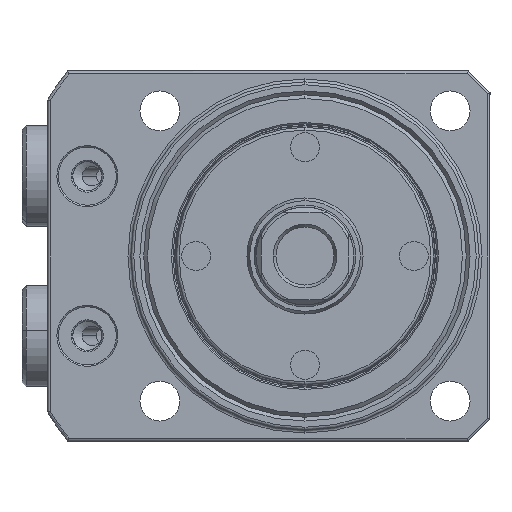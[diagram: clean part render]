
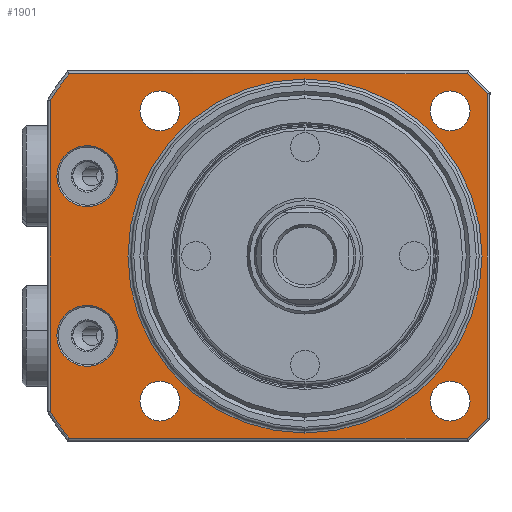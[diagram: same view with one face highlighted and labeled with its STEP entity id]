
A CAD part, front view. The second image highlights one B-rep face of the part: STEP entity #1901.
In plain terms, the highlighted planar face has unit normal (0, -1, 0) as drawn and (1, 0, 0) by its records, which use the part's own axes.
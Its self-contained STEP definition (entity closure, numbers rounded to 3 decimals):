
#929=FACE_BOUND('',#2471,.T.);
#930=FACE_BOUND('',#2472,.T.);
#931=FACE_BOUND('',#2473,.T.);
#932=FACE_BOUND('',#2474,.T.);
#933=FACE_BOUND('',#2475,.T.);
#934=FACE_BOUND('',#2476,.T.);
#935=FACE_BOUND('',#2477,.T.);
#936=FACE_BOUND('',#2478,.T.);
#1055=PLANE('',#5761);
#1407=LINE('',#8744,#1662);
#1408=LINE('',#8747,#1663);
#1409=LINE('',#8749,#1664);
#1410=LINE('',#8753,#1665);
#1411=LINE('',#8757,#1666);
#1412=LINE('',#8759,#1667);
#1662=VECTOR('',#6709,1.);
#1663=VECTOR('',#6710,1.);
#1664=VECTOR('',#6711,1.);
#1665=VECTOR('',#6714,1.);
#1666=VECTOR('',#6717,1.);
#1667=VECTOR('',#6718,1.);
#1901=ADVANCED_FACE('',(#929,#930,#931,#932,#933,#934,#935,#936),#1055,
 .F.);
#2471=EDGE_LOOP('',(#3489,#3490));
#2472=EDGE_LOOP('',(#3491,#3492));
#2473=EDGE_LOOP('',(#3493,#3494,#3495,#3496,#3497,#3498,#3499,#3500));
#2474=EDGE_LOOP('',(#3501,#3502));
#2475=EDGE_LOOP('',(#3503,#3504));
#2476=EDGE_LOOP('',(#3505,#3506));
#2477=EDGE_LOOP('',(#3507,#3508));
#2478=EDGE_LOOP('',(#3509,#3510));
#2718=CIRCLE('',#5610,4.2);
#2724=CIRCLE('',#5618,4.2);
#2733=CIRCLE('',#5630,24.4);
#2757=CIRCLE('',#5668,2.75);
#2760=CIRCLE('',#5673,2.75);
#2763=CIRCLE('',#5678,2.75);
#2766=CIRCLE('',#5683,2.75);
#2804=CIRCLE('',#5752,4.2);
#2805=CIRCLE('',#5753,4.2);
#2806=CIRCLE('',#5754,41.1);
#2807=CIRCLE('',#5755,41.1);
#2808=CIRCLE('',#5756,24.4);
#2809=CIRCLE('',#5757,2.75);
#2810=CIRCLE('',#5758,2.75);
#2811=CIRCLE('',#5759,2.75);
#2812=CIRCLE('',#5760,2.75);
#3489=ORIENTED_EDGE('',*,*,#4852,.T.);
#3490=ORIENTED_EDGE('',*,*,#5050,.T.);
#3491=ORIENTED_EDGE('',*,*,#4842,.T.);
#3492=ORIENTED_EDGE('',*,*,#5051,.T.);
#3493=ORIENTED_EDGE('',*,*,#5052,.T.);
#3494=ORIENTED_EDGE('',*,*,#5053,.T.);
#3495=ORIENTED_EDGE('',*,*,#5054,.T.);
#3496=ORIENTED_EDGE('',*,*,#5055,.T.);
#3497=ORIENTED_EDGE('',*,*,#5056,.T.);
#3498=ORIENTED_EDGE('',*,*,#5057,.T.);
#3499=ORIENTED_EDGE('',*,*,#5058,.T.);
#3500=ORIENTED_EDGE('',*,*,#5059,.T.);
#3501=ORIENTED_EDGE('',*,*,#5060,.T.);
#3502=ORIENTED_EDGE('',*,*,#4864,.T.);
#3503=ORIENTED_EDGE('',*,*,#5061,.T.);
#3504=ORIENTED_EDGE('',*,*,#4927,.T.);
#3505=ORIENTED_EDGE('',*,*,#5062,.T.);
#3506=ORIENTED_EDGE('',*,*,#4935,.T.);
#3507=ORIENTED_EDGE('',*,*,#5063,.T.);
#3508=ORIENTED_EDGE('',*,*,#4943,.T.);
#3509=ORIENTED_EDGE('',*,*,#5064,.T.);
#3510=ORIENTED_EDGE('',*,*,#4951,.T.);
#4370=VERTEX_POINT('',#7937);
#4371=VERTEX_POINT('',#7939);
#4380=VERTEX_POINT('',#7959);
#4381=VERTEX_POINT('',#7961);
#4392=VERTEX_POINT('',#7987);
#4393=VERTEX_POINT('',#7988);
#4448=VERTEX_POINT('',#8207);
#4449=VERTEX_POINT('',#8208);
#4456=VERTEX_POINT('',#8234);
#4457=VERTEX_POINT('',#8235);
#4464=VERTEX_POINT('',#8261);
#4465=VERTEX_POINT('',#8262);
#4472=VERTEX_POINT('',#8288);
#4473=VERTEX_POINT('',#8289);
#4524=VERTEX_POINT('',#8745);
#4525=VERTEX_POINT('',#8746);
#4526=VERTEX_POINT('',#8748);
#4527=VERTEX_POINT('',#8750);
#4528=VERTEX_POINT('',#8752);
#4529=VERTEX_POINT('',#8754);
#4530=VERTEX_POINT('',#8756);
#4531=VERTEX_POINT('',#8758);
#4842=EDGE_CURVE('',#4371,#4370,#2718,.T.);
#4852=EDGE_CURVE('',#4381,#4380,#2724,.T.);
#4864=EDGE_CURVE('',#4392,#4393,#2733,.T.);
#4927=EDGE_CURVE('',#4448,#4449,#2757,.T.);
#4935=EDGE_CURVE('',#4456,#4457,#2760,.T.);
#4943=EDGE_CURVE('',#4464,#4465,#2763,.T.);
#4951=EDGE_CURVE('',#4472,#4473,#2766,.T.);
#5050=EDGE_CURVE('',#4380,#4381,#2804,.T.);
#5051=EDGE_CURVE('',#4370,#4371,#2805,.T.);
#5052=EDGE_CURVE('',#4524,#4525,#1407,.T.);
#5053=EDGE_CURVE('',#4525,#4526,#1408,.T.);
#5054=EDGE_CURVE('',#4526,#4527,#1409,.T.);
#5055=EDGE_CURVE('',#4527,#4528,#2806,.T.);
#5056=EDGE_CURVE('',#4528,#4529,#1410,.T.);
#5057=EDGE_CURVE('',#4529,#4530,#2807,.T.);
#5058=EDGE_CURVE('',#4530,#4531,#1411,.T.);
#5059=EDGE_CURVE('',#4531,#4524,#1412,.T.);
#5060=EDGE_CURVE('',#4393,#4392,#2808,.T.);
#5061=EDGE_CURVE('',#4449,#4448,#2809,.T.);
#5062=EDGE_CURVE('',#4457,#4456,#2810,.T.);
#5063=EDGE_CURVE('',#4465,#4464,#2811,.T.);
#5064=EDGE_CURVE('',#4473,#4472,#2812,.T.);
#5610=AXIS2_PLACEMENT_3D('',#7938,#6347,#6348);
#5618=AXIS2_PLACEMENT_3D('',#7960,#6367,#6368);
#5630=AXIS2_PLACEMENT_3D('',#7986,#6394,#6395);
#5668=AXIS2_PLACEMENT_3D('',#8206,#6498,#6499);
#5673=AXIS2_PLACEMENT_3D('',#8233,#6512,#6513);
#5678=AXIS2_PLACEMENT_3D('',#8260,#6526,#6527);
#5683=AXIS2_PLACEMENT_3D('',#8287,#6540,#6541);
#5752=AXIS2_PLACEMENT_3D('',#8742,#6705,#6706);
#5753=AXIS2_PLACEMENT_3D('',#8743,#6707,#6708);
#5754=AXIS2_PLACEMENT_3D('',#8751,#6712,#6713);
#5755=AXIS2_PLACEMENT_3D('',#8755,#6715,#6716);
#5756=AXIS2_PLACEMENT_3D('',#8760,#6719,#6720);
#5757=AXIS2_PLACEMENT_3D('',#8761,#6721,#6722);
#5758=AXIS2_PLACEMENT_3D('',#8762,#6723,#6724);
#5759=AXIS2_PLACEMENT_3D('',#8763,#6725,#6726);
#5760=AXIS2_PLACEMENT_3D('',#8764,#6727,#6728);
#5761=AXIS2_PLACEMENT_3D('',#8765,#6729,#6730);
#6347=DIRECTION('',(-1.,0.,0.));
#6348=DIRECTION('',(0.,0.,1.));
#6367=DIRECTION('',(-1.,0.,0.));
#6368=DIRECTION('',(0.,0.,1.));
#6394=DIRECTION('',(-1.,0.,0.));
#6395=DIRECTION('',(0.,0.,1.));
#6498=DIRECTION('',(-1.,0.,0.));
#6499=DIRECTION('',(0.,0.,1.));
#6512=DIRECTION('',(-1.,0.,0.));
#6513=DIRECTION('',(0.,0.,1.));
#6526=DIRECTION('',(-1.,0.,0.));
#6527=DIRECTION('',(0.,0.,1.));
#6540=DIRECTION('',(-1.,0.,0.));
#6541=DIRECTION('',(0.,0.,1.));
#6705=DIRECTION('',(-1.,0.,0.));
#6706=DIRECTION('',(0.,0.,1.));
#6707=DIRECTION('',(-1.,0.,0.));
#6708=DIRECTION('',(0.,0.,1.));
#6709=DIRECTION('',(0.,0.,1.));
#6710=DIRECTION('',(0.,-0.707,0.707));
#6711=DIRECTION('',(0.,-1.,0.));
#6712=DIRECTION('',(1.,0.,0.));
#6713=DIRECTION('',(0.,0.,1.));
#6714=DIRECTION('',(0.,0.,-1.));
#6715=DIRECTION('',(1.,0.,0.));
#6716=DIRECTION('',(0.,0.,1.));
#6717=DIRECTION('',(0.,1.,0.));
#6718=DIRECTION('',(0.,0.707,0.707));
#6719=DIRECTION('',(-1.,0.,0.));
#6720=DIRECTION('',(0.,0.,1.));
#6721=DIRECTION('',(-1.,0.,0.));
#6722=DIRECTION('',(0.,0.,1.));
#6723=DIRECTION('',(-1.,0.,0.));
#6724=DIRECTION('',(0.,0.,1.));
#6725=DIRECTION('',(-1.,0.,0.));
#6726=DIRECTION('',(0.,0.,1.));
#6727=DIRECTION('',(-1.,0.,0.));
#6728=DIRECTION('',(0.,0.,1.));
#6729=DIRECTION('',(-1.,0.,0.));
#6730=DIRECTION('',(0.,0.,-1.));
#7937=CARTESIAN_POINT('',(0.,-30.,15.2));
#7938=CARTESIAN_POINT('',(0.,-30.,11.));
#7939=CARTESIAN_POINT('',(0.,-30.,6.8));
#7959=CARTESIAN_POINT('',(0.,-30.,-6.8));
#7960=CARTESIAN_POINT('',(0.,-30.,-11.));
#7961=CARTESIAN_POINT('',(0.,-30.,-15.2));
#7986=CARTESIAN_POINT('',(0.,0.,0.));
#7987=CARTESIAN_POINT('',(0.,0.,-24.4));
#7988=CARTESIAN_POINT('',(0.,0.,24.4));
#8206=CARTESIAN_POINT('',(0.,20.,-20.));
#8207=CARTESIAN_POINT('',(0.,20.,-22.75));
#8208=CARTESIAN_POINT('',(0.,20.,-17.25));
#8233=CARTESIAN_POINT('',(0.,20.,20.));
#8234=CARTESIAN_POINT('',(0.,20.,17.25));
#8235=CARTESIAN_POINT('',(0.,20.,22.75));
#8260=CARTESIAN_POINT('',(0.,-20.,20.));
#8261=CARTESIAN_POINT('',(0.,-20.,17.25));
#8262=CARTESIAN_POINT('',(0.,-20.,22.75));
#8287=CARTESIAN_POINT('',(0.,-20.,-20.));
#8288=CARTESIAN_POINT('',(0.,-20.,-22.75));
#8289=CARTESIAN_POINT('',(0.,-20.,-17.25));
#8742=CARTESIAN_POINT('',(0.,-30.,-11.));
#8743=CARTESIAN_POINT('',(0.,-30.,11.));
#8744=CARTESIAN_POINT('',(0.,25.1,22.5));
#8745=CARTESIAN_POINT('',(0.,25.1,-22.334));
#8746=CARTESIAN_POINT('',(0.,25.1,22.334));
#8747=CARTESIAN_POINT('',(0.,22.217,25.217));
#8748=CARTESIAN_POINT('',(0.,22.334,25.1));
#8749=CARTESIAN_POINT('',(0.,-32.741,25.1));
#8750=CARTESIAN_POINT('',(0.,-32.545,25.1));
#8751=CARTESIAN_POINT('',(0.,0.,0.));
#8752=CARTESIAN_POINT('',(0.,-35.1,21.382));
#8753=CARTESIAN_POINT('',(0.,-35.1,-21.494));
#8754=CARTESIAN_POINT('',(0.,-35.1,-21.382));
#8755=CARTESIAN_POINT('',(0.,0.,0.));
#8756=CARTESIAN_POINT('',(0.,-32.545,-25.1));
#8757=CARTESIAN_POINT('',(0.,22.5,-25.1));
#8758=CARTESIAN_POINT('',(0.,22.334,-25.1));
#8759=CARTESIAN_POINT('',(0.,25.217,-22.217));
#8760=CARTESIAN_POINT('',(0.,0.,0.));
#8761=CARTESIAN_POINT('',(0.,20.,-20.));
#8762=CARTESIAN_POINT('',(0.,20.,20.));
#8763=CARTESIAN_POINT('',(0.,-20.,20.));
#8764=CARTESIAN_POINT('',(0.,-20.,-20.));
#8765=CARTESIAN_POINT('',(0.,0.,0.));
